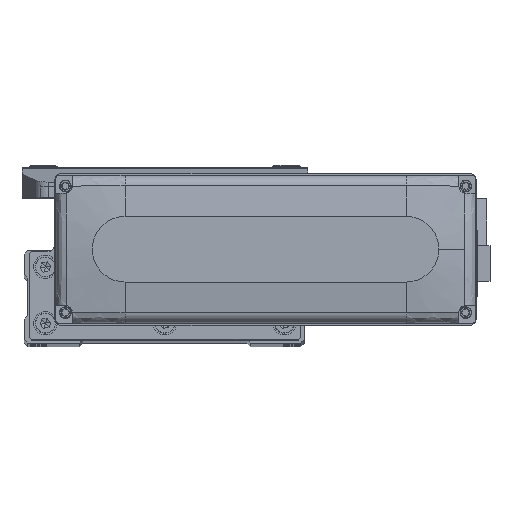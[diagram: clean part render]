
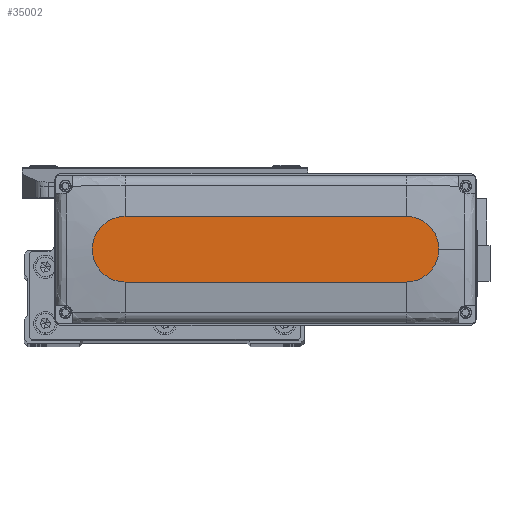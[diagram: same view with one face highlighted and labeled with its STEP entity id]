
A CAD part, top view. The second image highlights one B-rep face of the part: STEP entity #35002.
In plain terms, the highlighted planar face has unit normal (0, 0, 1).
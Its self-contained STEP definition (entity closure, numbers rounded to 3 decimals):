
#2044 = VERTEX_POINT ( 'NONE', #16947 ) ;
#2597 = DIRECTION ( 'NONE',  ( 1., 0., 0. ) ) ;
#3090 = CARTESIAN_POINT ( 'NONE',  ( 60., 14., 28.5 ) ) ;
#5433 = LINE ( 'NONE', #19605, #24773 ) ;
#5590 = DIRECTION ( 'NONE',  ( 1., 0., 0. ) ) ;
#6080 = PLANE ( 'NONE',  #16570 ) ;
#6560 = EDGE_CURVE ( 'NONE', #30142, #41677, #5433, .T. ) ;
#8485 = ORIENTED_EDGE ( 'NONE', *, *, #19827, .T. ) ;
#10912 = VERTEX_POINT ( 'NONE', #21643 ) ;
#11136 = EDGE_CURVE ( 'NONE', #2044, #30142, #19971, .T. ) ;
#11526 = EDGE_CURVE ( 'NONE', #10912, #2044, #17489, .T. ) ;
#11883 = VERTEX_POINT ( 'NONE', #26346 ) ;
#12264 = DIRECTION ( 'NONE',  ( 0., 0., 1. ) ) ;
#12269 = ORIENTED_EDGE ( 'NONE', *, *, #33122, .T. ) ;
#12295 = CARTESIAN_POINT ( 'NONE',  ( 60., 0., 28.5 ) ) ;
#12427 = LINE ( 'NONE', #26587, #35672 ) ;
#13696 = CIRCLE ( 'NONE', #19594, 14. ) ;
#14911 = ORIENTED_EDGE ( 'NONE', *, *, #11136, .T. ) ;
#16570 = AXIS2_PLACEMENT_3D ( 'NONE', #20254, #34428, #2597 ) ;
#16947 = CARTESIAN_POINT ( 'NONE',  ( 74., 0., 28.5 ) ) ;
#17489 = CIRCLE ( 'NONE', #25944, 14. ) ;
#19594 = AXIS2_PLACEMENT_3D ( 'NONE', #44047, #12264, #26433 ) ;
#19605 = CARTESIAN_POINT ( 'NONE',  ( -60., 14., 28.5 ) ) ;
#19827 = EDGE_CURVE ( 'NONE', #41677, #11883, #13696, .T. ) ;
#19971 = CIRCLE ( 'NONE', #41253, 14. ) ;
#20077 = ORIENTED_EDGE ( 'NONE', *, *, #6560, .T. ) ;
#20254 = CARTESIAN_POINT ( 'NONE',  ( 0., 0., 28.5 ) ) ;
#21601 = EDGE_LOOP ( 'NONE', ( #20077, #8485, #12269, #41468, #14911 ) ) ;
#21643 = CARTESIAN_POINT ( 'NONE',  ( 60., -14., 28.5 ) ) ;
#23256 = CARTESIAN_POINT ( 'NONE',  ( 60., 0., 28.5 ) ) ;
#24773 = VECTOR ( 'NONE', #33781, 1000. ) ;
#25944 = AXIS2_PLACEMENT_3D ( 'NONE', #12295, #26462, #40593 ) ;
#26346 = CARTESIAN_POINT ( 'NONE',  ( -60., -14., 28.5 ) ) ;
#26433 = DIRECTION ( 'NONE',  ( 1., 0., 0. ) ) ;
#26462 = DIRECTION ( 'NONE',  ( 0., 0., 1. ) ) ;
#26587 = CARTESIAN_POINT ( 'NONE',  ( -60., -14., 28.5 ) ) ;
#30142 = VERTEX_POINT ( 'NONE', #3090 ) ;
#32406 = CARTESIAN_POINT ( 'NONE',  ( -60., 14., 28.5 ) ) ;
#33122 = EDGE_CURVE ( 'NONE', #11883, #10912, #12427, .T. ) ;
#33781 = DIRECTION ( 'NONE',  ( -1., 0., 0. ) ) ;
#34428 = DIRECTION ( 'NONE',  ( 0., 0., 1. ) ) ;
#35002 = ADVANCED_FACE ( 'NONE', ( #37886 ), #6080, .T. ) ;
#35672 = VECTOR ( 'NONE', #40713, 1000. ) ;
#37390 = DIRECTION ( 'NONE',  ( 0., 0., 1. ) ) ;
#37886 = FACE_OUTER_BOUND ( 'NONE', #21601, .T. ) ;
#40593 = DIRECTION ( 'NONE',  ( 1., 0., 0. ) ) ;
#40713 = DIRECTION ( 'NONE',  ( 1., 0., 0. ) ) ;
#41253 = AXIS2_PLACEMENT_3D ( 'NONE', #23256, #37390, #5590 ) ;
#41468 = ORIENTED_EDGE ( 'NONE', *, *, #11526, .T. ) ;
#41677 = VERTEX_POINT ( 'NONE', #32406 ) ;
#44047 = CARTESIAN_POINT ( 'NONE',  ( -60., 0., 28.5 ) ) ;
